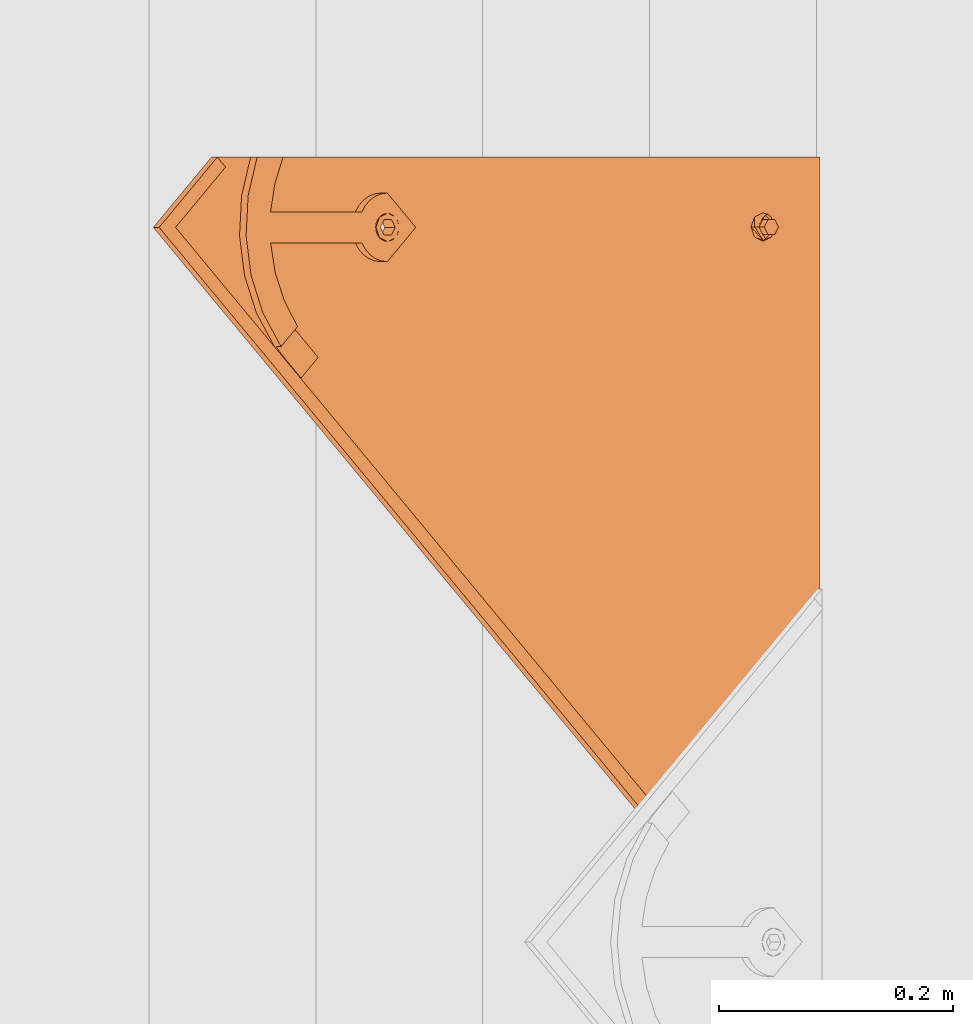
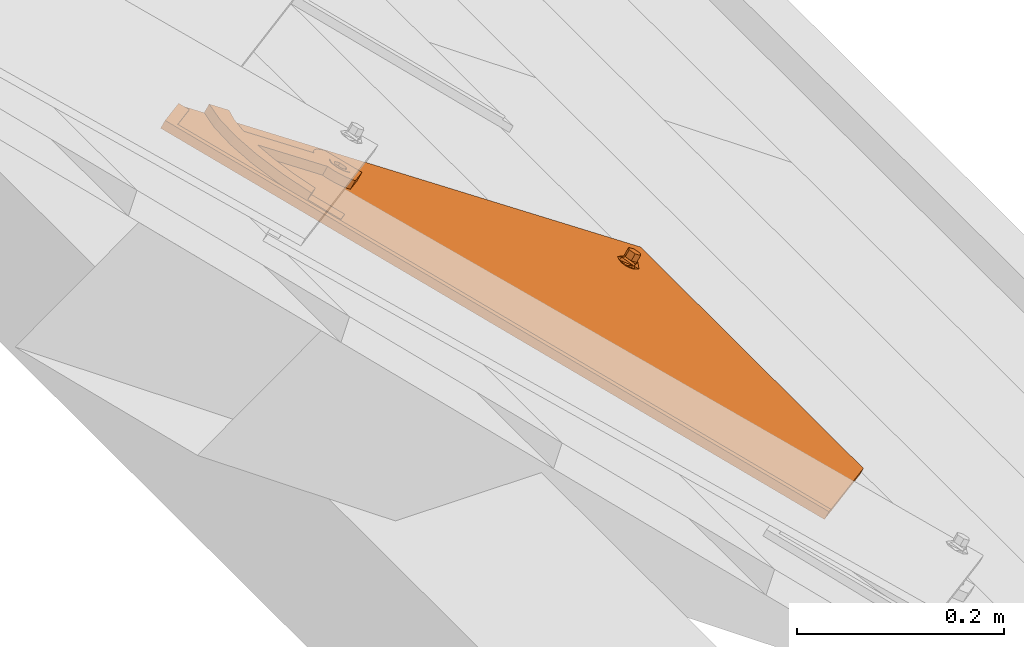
# One storey, part 131 of 151: 1 proxy.
"""IFC2X3 building model written with IfcOpenShell, lengths in millimetres."""

import ifcopenshell
import ifcopenshell.guid

model = None  # the IFC model being written
_history = None  # IfcOwnerHistory: only IFC2X3 demands one
_inside = {}  # id of a spatial element -> (the spatial element, [elements in it])
_under = {}  # id of a project, library or spatial element -> (it, [spatial elements below it])
_declared = {}  # id of a project -> (the project, [libraries it declares])
_typed = {}  # id of a type object -> (the type object, [elements of that type])
_made_of = {}  # id of a material, layer set ... -> (it, [elements and type objects made of it])


def new_model(schema):
    """Start an empty IFC model of exactly this schema.

    Asked for "IFC4X3", IfcOpenShell would pick the latest addendum, in which some entities
    have other attributes; the version numbers below select the first issue.
    IFC2X3 requires an IfcOwnerHistory on every rooted entity: one is made here for all.
    """
    global model, _history
    if schema == "IFC4X3":
        model = ifcopenshell.file(schema_version=(4, 3, 0, 0))
    else:
        model = ifcopenshell.file(schema=schema)
    _inside.clear()
    _under.clear()
    _declared.clear()
    _typed.clear()
    _made_of.clear()
    _history = None
    if model.schema == "IFC2X3":
        org = make("IfcOrganization", Name="unknown")
        user = make(
            "IfcPersonAndOrganization",
            ThePerson=make("IfcPerson", FamilyName="unknown"),
            TheOrganization=org,
        )
        app = make(
            "IfcApplication",
            ApplicationDeveloper=org,
            Version="unknown",
            ApplicationFullName="unknown",
            ApplicationIdentifier="unknown",
        )
        _history = make(
            "IfcOwnerHistory",
            OwningUser=user,
            OwningApplication=app,
            ChangeAction="ADDED",
            CreationDate=0,
        )
    return model


def make(cls, **values):
    """One entity of the class cls with the attributes given. An attribute that is None is left unset."""
    return model.create_entity(
        cls, **{name: value for name, value in values.items() if value is not None}
    )


def entity(cls, *values):
    """Any entity or typed value of the class cls, its attributes in the order of the schema. None: left unset."""
    e = model.create_entity(cls)
    for i, value in enumerate(values):
        if value is not None:
            e[i] = value
    return e


def rooted(cls, **values):
    """An entity with a GlobalId (a new one), such as an element, a storey or a relation."""
    return make(cls, GlobalId=ifcopenshell.guid.new(), OwnerHistory=_history, **values)


def si_unit(unit_type, name, prefix=None):
    """IfcSIUnit, for example si_unit("LENGTHUNIT", "METRE", prefix="MILLI")."""
    return make("IfcSIUnit", UnitType=unit_type, Prefix=prefix, Name=name)


def converted_unit(unit_type, name, factor, base, dimensions=None, offset=None):
    """IfcConversionBasedUnit, such as the inch: factor (a typed value) times the base unit."""
    return make(
        "IfcConversionBasedUnit"
        if offset is None
        else "IfcConversionBasedUnitWithOffset",
        ConversionOffset=offset,
        Dimensions=None
        if dimensions is None
        else entity("IfcDimensionalExponents", *dimensions),
        UnitType=unit_type,
        Name=name,
        ConversionFactor=make(
            "IfcMeasureWithUnit", ValueComponent=factor, UnitComponent=base
        ),
    )


def derived_unit(unit_type, elements):
    """IfcDerivedUnit: a product of units, each with its exponent."""
    return make(
        "IfcDerivedUnit",
        Elements=[
            make("IfcDerivedUnitElement", Unit=unit, Exponent=power)
            for unit, power in elements
        ],
        UnitType=unit_type,
    )


def assignment(units):
    """IfcUnitAssignment: the units of a project."""
    return None if units is None else make("IfcUnitAssignment", Units=units)


def point(xyz):
    """IfcCartesianPoint."""
    return None if xyz is None else make("IfcCartesianPoint", Coordinates=xyz)


def direction(xyz):
    """IfcDirection."""
    return None if xyz is None else make("IfcDirection", DirectionRatios=xyz)


def frame(location, z_axis=None, x_axis=None):
    """IfcAxis2Placement3D, a coordinate frame: its origin and axes. An axis left out is left unset."""
    return make(
        "IfcAxis2Placement3D",
        Location=point(location),
        Axis=direction(z_axis),
        RefDirection=direction(x_axis),
    )


def origin():
    """The frame at (0, 0, 0) with its axes left unset."""
    return frame((0.0, 0.0, 0.0))


def place(relative_to, where):
    """IfcLocalPlacement: puts the frame where relative to a parent placement (None: the world)."""
    return make(
        "IfcLocalPlacement", PlacementRelTo=relative_to, RelativePlacement=where
    )


def context(
    kind, dimensions, precision=None, world=None, true_north=None, identifier=None
):
    """IfcGeometricRepresentationContext, for example the 3D "Model" context."""
    return make(
        "IfcGeometricRepresentationContext",
        ContextIdentifier=identifier,
        ContextType=kind,
        CoordinateSpaceDimension=dimensions,
        Precision=precision,
        WorldCoordinateSystem=world,
        TrueNorth=true_north,
    )


def subcontext(parent, identifier, kind, view, scale=None):
    """IfcGeometricRepresentationSubContext, for example "Body" below "Model"."""
    return make(
        "IfcGeometricRepresentationSubContext",
        ContextIdentifier=identifier,
        ContextType=kind,
        ParentContext=parent,
        TargetScale=scale,
        TargetView=view,
    )


def project(units=None, contexts=None):
    """IfcProject with its units and contexts."""
    return rooted(
        "IfcProject",
        Name="project",
        RepresentationContexts=contexts,
        UnitsInContext=assignment(units),
    )


def spatial(cls, under=None, at=None, **own):
    """A site, building, storey or space (cls), placed at a placement, below another one or the project."""
    s = rooted(cls, ObjectPlacement=at, **own)
    if under is not None:
        _under.setdefault(under.id(), (under, []))[1].append(s)
    return s


def faces_of(points, faces, orient=None, outer=None):
    """IfcFace entities. A face is a list of loops; a loop is a list of indices into points, from 0.

    orient and outer hold one flag for each loop. By default every Orientation is true, the
    first loop of a face is its IfcFaceOuterBound and the others are IfcFaceBound.
    """
    made = []
    for i, loops in enumerate(faces):
        bounds = []
        for j, loop in enumerate(loops):
            is_outer = j == 0 if outer is None else outer[i][j]
            bounds.append(
                make(
                    "IfcFaceOuterBound" if is_outer else "IfcFaceBound",
                    Bound=make("IfcPolyLoop", Polygon=[points[k] for k in loop]),
                    Orientation=True if orient is None else orient[i][j],
                )
            )
        made.append(make("IfcFace", Bounds=bounds))
    return made


def faceted_brep(points, faces, orient=None, outer=None, voids=None):
    """IfcFacetedBrep: a solid bounded by flat faces; with voids (closed shells), ...WithVoids."""
    shared = [point(p) for p in points]
    hull = make("IfcClosedShell", CfsFaces=faces_of(shared, faces, orient, outer))
    if voids is None:
        return make("IfcFacetedBrep", Outer=hull)
    return make(
        "IfcFacetedBrepWithVoids",
        Outer=hull,
        Voids=[
            make(cls, CfsFaces=faces_of(shared, fs, o, b)) for cls, fs, o, b in voids
        ],
    )


def shape(context_of_items, identifier, shape_type, items):
    """IfcShapeRepresentation: the items that make up one representation, for example the "Body"."""
    return make(
        "IfcShapeRepresentation",
        ContextOfItems=context_of_items,
        RepresentationIdentifier=identifier,
        RepresentationType=shape_type,
        Items=items,
    )


def source(mapping_origin, context_of_items, identifier, shape_type, items):
    """IfcRepresentationMap: a shape defined once, which mapped items show again and again."""
    return make(
        "IfcRepresentationMap",
        MappingOrigin=mapping_origin,
        MappedRepresentation=shape(context_of_items, identifier, shape_type, items),
    )


def transform(
    local_origin,
    x_axis=None,
    y_axis=None,
    z_axis=None,
    scale=None,
    scale2=None,
    scale3=None,
    uniform=True,
):
    """IfcCartesianTransformationOperator3D, or its non-uniform kind. x_axis, y_axis, z_axis: its Axis1, 2, 3."""
    if uniform:
        return make(
            "IfcCartesianTransformationOperator3D",
            Axis1=direction(x_axis),
            Axis2=direction(y_axis),
            LocalOrigin=point(local_origin),
            Scale=scale,
            Axis3=direction(z_axis),
        )
    return make(
        "IfcCartesianTransformationOperator3DnonUniform",
        Axis1=direction(x_axis),
        Axis2=direction(y_axis),
        LocalOrigin=point(local_origin),
        Scale=scale,
        Axis3=direction(z_axis),
        Scale2=scale2,
        Scale3=scale3,
    )


def mapped(mapping_source, mapping_target):
    """IfcMappedItem: shows the shape of a source again, moved by a transform."""
    return make(
        "IfcMappedItem", MappingSource=mapping_source, MappingTarget=mapping_target
    )


def material(Name=None, Category=None):
    """IfcMaterial."""
    return make("IfcMaterial", Name=Name, Category=Category)


def material_list(materials):
    """IfcMaterialList."""
    return make("IfcMaterialList", Materials=materials)


def made_of(thing, what):
    """Note that an element or type object is made of a material, layer set ...; save() writes the relation."""
    if what is not None:
        _made_of.setdefault(what.id(), (what, []))[1].append(thing)
    return thing


def type_object(cls, material=None, **own):
    """A type object (cls), such as IfcWallType, which elements share."""
    return made_of(rooted(cls, **own), material)


def type_shapes(of_type, sources):
    """Give a type object the sources (RepresentationMaps) that its elements show as mapped items."""
    of_type.RepresentationMaps = sources


def element(
    cls,
    number,
    at=None,
    inside=None,
    cuts=None,
    type_object=None,
    material=None,
    context=None,
    identifier="Body",
    shape_type=None,
    held_by="IfcProductDefinitionShape",
    body=None,
    shapes=None,
    **own,
):
    """One element of the class cls, such as IfcWall. Its Tag is "e" and its number.

    at: its placement. inside: the storey or other place that contains it. cuts: it is an
    opening in that element (IfcRelVoidsElement). A single representation is given by context,
    identifier, shape_type and body (its items); several are given by shapes. held_by: the class
    of the entity that holds the representations. save() writes the other relations.
    """
    e = rooted(cls, Tag="e%d" % number, ObjectPlacement=at, **own)
    if body is not None:
        shapes = [shape(context, identifier, shape_type, body)]
    if shapes is not None:
        e.Representation = make(held_by, Representations=shapes)
    if inside is not None:
        _inside.setdefault(inside.id(), (inside, []))[1].append(e)
    if cuts is not None:
        rooted(
            "IfcRelVoidsElement", RelatingBuildingElement=cuts, RelatedOpeningElement=e
        )
    if type_object is not None:
        _typed.setdefault(type_object.id(), (type_object, []))[1].append(e)
    return made_of(e, material)


def aggregate(whole, parts):
    """IfcRelAggregates: a whole, such as a stair, and the parts it consists of."""
    return rooted("IfcRelAggregates", RelatingObject=whole, RelatedObjects=parts)


def save(model, path):
    """Write the relations noted so far, then the file.

    IfcRelAggregates (storeys below a building ...), IfcRelContainedInSpatialStructure (elements
    in a storey), IfcRelDefinesByType, IfcRelAssociatesMaterial and IfcRelDeclares: one each for
    every whole, place, type object, material and project.
    """
    for whole, parts in _under.values():
        aggregate(whole, parts)
    for where, things in _inside.values():
        rooted(
            "IfcRelContainedInSpatialStructure",
            RelatedElements=things,
            RelatingStructure=where,
        )
    for kind, things in _typed.values():
        rooted("IfcRelDefinesByType", RelatedObjects=things, RelatingType=kind)
    for what, things in _made_of.values():
        rooted("IfcRelAssociatesMaterial", RelatedObjects=things, RelatingMaterial=what)
    for by, libraries in _declared.values():
        rooted("IfcRelDeclares", RelatingContext=by, RelatedDefinitions=libraries)
    model.write(path)


model = new_model("IFC2X3")

# Units and contexts
model_context = context("Model", 3, precision=0.01, world=origin(), true_north=direction((6.12303176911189e-17, 1.0)))
body_context = subcontext(model_context, "Body", "Model", "MODEL_VIEW")
ifc_project = project(units=[si_unit("LENGTHUNIT", "METRE", prefix="MILLI"), si_unit("AREAUNIT", "SQUARE_METRE"), si_unit("VOLUMEUNIT", "CUBIC_METRE"), converted_unit("PLANEANGLEUNIT", "DEGREE", entity("IfcRatioMeasure", 0.0174532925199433), si_unit("PLANEANGLEUNIT", "RADIAN"), dimensions=[0, 0, 0, 0, 0, 0, 0]), si_unit("MASSUNIT", "GRAM", prefix="KILO"), derived_unit("MASSDENSITYUNIT", [(si_unit("MASSUNIT", "GRAM", prefix="KILO"), 1), (si_unit("LENGTHUNIT", "METRE"), -3)]), si_unit("TIMEUNIT", "SECOND"), si_unit("FREQUENCYUNIT", "HERTZ"), si_unit("THERMODYNAMICTEMPERATUREUNIT", "DEGREE_CELSIUS"), derived_unit("THERMALTRANSMITTANCEUNIT", [(si_unit("MASSUNIT", "GRAM", prefix="KILO"), 1), (si_unit("THERMODYNAMICTEMPERATUREUNIT", "KELVIN"), -1), (si_unit("TIMEUNIT", "SECOND"), -3)]), derived_unit("VOLUMETRICFLOWRATEUNIT", [(si_unit("LENGTHUNIT", "METRE"), 3), (si_unit("TIMEUNIT", "SECOND"), -1)]), si_unit("ELECTRICCURRENTUNIT", "AMPERE"), si_unit("ELECTRICVOLTAGEUNIT", "VOLT"), si_unit("POWERUNIT", "WATT"), si_unit("FORCEUNIT", "NEWTON", prefix="KILO"), si_unit("ILLUMINANCEUNIT", "LUX"), si_unit("LUMINOUSFLUXUNIT", "LUMEN"), si_unit("LUMINOUSINTENSITYUNIT", "CANDELA"), derived_unit("USERDEFINED", [(si_unit("MASSUNIT", "GRAM", prefix="KILO"), -1), (si_unit("LENGTHUNIT", "METRE"), -2), (si_unit("TIMEUNIT", "SECOND"), 3), (si_unit("LUMINOUSFLUXUNIT", "LUMEN"), 1)]), derived_unit("LINEARVELOCITYUNIT", [(si_unit("LENGTHUNIT", "METRE"), 1), (si_unit("TIMEUNIT", "SECOND"), -1)]), si_unit("PRESSUREUNIT", "PASCAL"), derived_unit("USERDEFINED", [(si_unit("LENGTHUNIT", "METRE"), -2), (si_unit("MASSUNIT", "GRAM", prefix="KILO"), 1), (si_unit("TIMEUNIT", "SECOND"), -2)])], contexts=[model_context])

# Site, building, storey
site_placement = place(None, origin())
site = spatial("IfcSite", under=ifc_project, at=site_placement, Name="Default", CompositionType="ELEMENT")
building_placement = place(site_placement, origin())
building = spatial("IfcBuilding", under=site, at=building_placement, CompositionType="ELEMENT")
storey_placement = place(building_placement, origin())
storey = spatial("IfcBuildingStorey", under=building, at=storey_placement, Name="Level 1", CompositionType="ELEMENT", Elevation=0.0)

# Proxy
ifc_material_1 = material(Name="Rubber - Sunstyle - Black")
ifc_material_2 = material(Name="Glass - Sunstyle - Tainted Black")
ifc_material_list_1 = material_list([ifc_material_1, ifc_material_2])
ifc_material_list_2 = material_list([ifc_material_1, ifc_material_2])
building_element_proxy_type = type_object("IfcBuildingElementProxyType", Name="Corner Bottom Big Right - Black", PredefinedType="NOTDEFINED", material=ifc_material_list_2)
shared_shape = source(origin(), body_context, "Body", "Brep", [
    faceted_brep([(0.270009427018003, -2.025866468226, -4.01619789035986), (-5.50419340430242, -5.35913660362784, -3.96037390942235), (-5.50419340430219, -4.99082751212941, 18.0314954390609), (0.270009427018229, -1.65755737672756, 17.9756714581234), (-5.50419340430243, -12.0256768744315, -3.84872594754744), (-5.5041934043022, -11.6573677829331, 18.1431434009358), (0.270009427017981, -15.3589470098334, -3.79290196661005), (0.270009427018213, -14.990637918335, 18.1989673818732), (6.04421225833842, -12.0256768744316, -3.84872594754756), (6.04421225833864, -11.6573677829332, 18.1431434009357), (6.04421225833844, -5.35913660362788, -3.96037390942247), (6.04421225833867, -4.99082751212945, 18.0314954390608), (-8.3336947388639, -16.9265954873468, 18.2313898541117), (0.27000942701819, -20.4898667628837, 18.2910657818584), (-11.8974656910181, -8.32409764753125, 18.0873194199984), (-8.33369473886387, 0.278400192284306, 17.9432489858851), (0.270009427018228, 3.84167146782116, 17.8835730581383), (8.87371359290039, 0.278400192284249, 17.9432489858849), (12.4374845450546, -8.32409764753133, 18.0873194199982), (8.87371359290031, -16.9265954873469, 18.2313898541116), (-11.1602134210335, -6.95050198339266, 20.4858706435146), (-9.50050407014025, -8.25322861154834, 22.3189355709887), (0.270009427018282, -0.940007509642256, 22.9603444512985), (0.27000942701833, 0.300490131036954, 22.3799978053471), (0.270009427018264, 2.4580409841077, 21.3706227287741), (-6.05323627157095, -4.59022324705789, 23.0214764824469), (-6.05323627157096, -11.8906547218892, 23.1437405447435), (0.270009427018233, -18.990246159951, 21.7298281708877), (0.270009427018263, -15.5408704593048, 23.2048725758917), (11.2551842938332, -12.0411541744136, 20.3827540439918), (10.3938597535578, -8.25726753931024, 22.077768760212), (6.59325512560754, -4.59022324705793, 23.0214764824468), (6.5932551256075, -11.8906547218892, 23.1437405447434), (-6.05323627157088, -11.7566262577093, 31.1466287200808), (0.270009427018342, -15.4068419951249, 31.207760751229), (0.270009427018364, -8.10641052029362, 31.0854966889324), (-6.05323627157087, -4.456194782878, 31.0243646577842), (6.59325512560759, -11.7566262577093, 31.1466287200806), (6.59325512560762, -4.45619478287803, 31.024364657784), (0.270009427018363, -0.805979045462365, 30.9632326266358), (0.270009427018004, -8.69240673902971, -3.90454992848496)], [[[0, 1, 2, 3]], [[1, 4, 5, 2]], [[4, 6, 7, 5]], [[6, 8, 9, 7]], [[8, 10, 11, 9]], [[10, 0, 3, 11]], [[12, 7, 13]], [[7, 12, 5]], [[14, 5, 12]], [[5, 14, 2]], [[15, 2, 14]], [[3, 2, 15]], [[15, 16, 3]], [[16, 17, 3]], [[11, 3, 17]], [[11, 17, 18]], [[9, 11, 18]], [[18, 19, 9]], [[7, 9, 19]], [[19, 13, 7]], [[15, 20, 16]], [[21, 22, 23, 24]], [[22, 21, 25]], [[20, 14, 12]], [[15, 14, 20]], [[25, 21, 26]], [[20, 24, 16]], [[12, 13, 27]], [[12, 27, 20]], [[21, 28, 26]], [[21, 27, 28]], [[20, 21, 24]], [[20, 27, 21]], [[19, 29, 13]], [[30, 23, 31]], [[30, 28, 27]], [[24, 23, 30]], [[29, 27, 13]], [[19, 18, 29]], [[29, 30, 27]], [[29, 17, 24]], [[24, 17, 16]], [[31, 32, 30]], [[23, 22, 31]], [[28, 30, 32]], [[29, 24, 30]], [[29, 18, 17]], [[33, 34, 35]], [[35, 36, 33]], [[34, 37, 35]], [[38, 35, 37]], [[35, 38, 39]], [[35, 39, 36]], [[40, 6, 4]], [[4, 1, 40]], [[1, 0, 40]], [[40, 8, 6]], [[0, 10, 40]], [[8, 40, 10]], [[22, 25, 36, 39]], [[25, 26, 33, 36]], [[26, 28, 34, 33]], [[28, 32, 37, 34]], [[32, 31, 38, 37]], [[31, 22, 39, 38]]]),
    faceted_brep([(-518.247351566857, 79.9143812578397, 14.9652572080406), (-518.247351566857, 79.9394990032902, 16.4650468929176), (-526.732038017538, 88.4241854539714, 16.3229495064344), (-526.732038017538, 88.399067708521, 14.8231598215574), (-0.00032251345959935, 614.98308737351, 6.00418773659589), (60.1037538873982, 554.895864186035, 7.01049921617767), (51.6190674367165, 546.411177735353, 7.15259660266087), (-0.000322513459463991, 598.016093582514, 6.28834266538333), (-0.000322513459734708, 615.00820511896, 7.50397742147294), (-0.000322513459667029, 598.041211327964, 7.78813235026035), (51.6190674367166, 546.436295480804, 8.65238628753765), (60.1037538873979, 554.920981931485, 8.51028890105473)], [[[0, 1, 2, 3]], [[0, 3, 4, 5, 6, 7]], [[3, 2, 8, 4]], [[2, 1, 9, 10, 11, 8]], [[1, 0, 7, 9]], [[6, 5, 11, 10]], [[4, 8, 11, 5]], [[9, 7, 6, 10]]]),
    faceted_brep([(0.0, 372.774440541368, 20.3195200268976), (0.0, 377.273809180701, 20.2441667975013), (-8.60370416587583, 376.337711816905, 20.2598440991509), (8.60370416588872, 376.337711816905, 20.2598440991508), (6.64022859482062, 381.107009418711, 20.1799702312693), (12.1674751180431, 384.940209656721, 20.1157736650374), (6.64022859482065, 388.773409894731, 20.0515770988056), (8.6037041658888, 393.542707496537, 19.9717032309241), (0.0, 392.606610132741, 19.9873805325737), (0.0, 397.105978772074, 19.9120273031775), (-8.60370416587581, 393.542707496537, 19.9717032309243), (-6.64022859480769, 388.773409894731, 20.0515770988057), (-12.1674751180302, 384.940209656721, 20.1157736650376), (-6.6402285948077, 381.107009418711, 20.1799702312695), (-6.6402282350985, 388.505487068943, 4.05382046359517), (0.0, 392.338687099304, 3.98962390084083), (-6.64022823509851, 380.839087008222, 4.18221358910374), (0.0, 377.005886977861, 4.24641015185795), (6.64022823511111, 380.839087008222, 4.1822135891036), (6.64022823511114, 388.505487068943, 4.05382046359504), (-8.603704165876, 376.069789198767, 4.26208746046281), (0.0, 372.50651792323, 4.32176338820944), (-12.1674751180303, 384.672287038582, 4.11801702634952), (-8.60370416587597, 393.274784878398, 3.97394659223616), (0.0, 396.838056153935, 3.91427066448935), (8.60370416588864, 393.274784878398, 3.97394659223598), (12.1674751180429, 384.672287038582, 4.11801702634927), (8.60370416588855, 376.069789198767, 4.26208746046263)], [[[0, 1, 2]], [[1, 0, 3]], [[3, 4, 1]], [[4, 3, 5]], [[6, 4, 5]], [[5, 7, 6]], [[7, 8, 6]], [[8, 7, 9]], [[8, 9, 10]], [[10, 11, 8]], [[12, 11, 10]], [[2, 13, 12]], [[12, 13, 11]], [[13, 2, 1]], [[8, 11, 14, 15]], [[11, 13, 16, 14]], [[13, 1, 17, 16]], [[1, 4, 18, 17]], [[4, 6, 19, 18]], [[6, 8, 15, 19]], [[20, 17, 21]], [[17, 20, 16]], [[22, 16, 20]], [[14, 16, 22]], [[23, 14, 22]], [[15, 14, 23]], [[23, 24, 15]], [[24, 25, 15]], [[19, 15, 25]], [[19, 25, 26]], [[26, 18, 19]], [[26, 27, 18]], [[17, 18, 27]], [[27, 21, 17]], [[24, 23, 10, 9]], [[10, 23, 22, 12]], [[20, 21, 0, 2]], [[20, 2, 12, 22]], [[21, 27, 3, 0]], [[3, 27, 26, 5]], [[25, 24, 9, 7]], [[25, 7, 5, 26]]]),
    faceted_brep([(-10.3923048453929, 390.78484910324, 9.75895037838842), (-8.48528137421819, 393.269782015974, 9.7173339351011), (-0.00032251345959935, 614.983087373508, 6.0041877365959), (-11.5911099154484, 387.891083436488, 9.8074137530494), (-6.0, 395.176538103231, 9.68540051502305), (-3.10582854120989, 396.37517508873, 9.6653263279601), (60.1037538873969, 554.895864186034, 7.01049921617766), (0.0, 396.784007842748, 9.65847939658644), (3.1058285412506, 396.37517508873, 9.6653263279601), (6.0, 395.176538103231, 9.68540051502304), (8.48528137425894, 393.269782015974, 9.7173339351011), (10.3923048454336, 390.784849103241, 9.75895037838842), (11.5911099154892, 387.891083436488, 9.8074137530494), (12.0, 384.785690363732, 9.8594213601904), (11.5911099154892, 381.680297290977, 9.9114289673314), (60.103753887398, -67.933460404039, 17.4413406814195), (10.3923048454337, 378.786531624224, 9.95989234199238), (6.58173564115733, -3.94243384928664, 16.369650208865), (8.48528137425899, 376.301598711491, 10.0015087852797), (5.31038666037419, -2.28581190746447, 16.3419059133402), (6.0, 374.394842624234, 10.0334422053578), (3.65353241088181, -1.01464118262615, 16.3206169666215), (3.10582854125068, 373.196205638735, 10.0535163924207), (1.72408477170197, -0.215549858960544, 16.3072341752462), (0.0, 372.787372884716, 10.0603633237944), (-0.346467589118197, 0.0570053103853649, 16.3026695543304), (-2.41701994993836, -0.215549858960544, 16.3072341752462), (-3.10582854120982, 373.196205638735, 10.0535163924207), (-4.34646758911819, -1.01464118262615, 16.3206169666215), (-6.0, 374.394842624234, 10.0334422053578), (-6.00332183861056, -2.28581190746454, 16.3419059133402), (-8.48528137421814, 376.301598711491, 10.0015087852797), (-370.355661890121, -67.9334604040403, 17.4413406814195), (-10.3923048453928, 378.786531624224, 9.95989234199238), (-526.732038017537, 88.3990677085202, 14.8231598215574), (-11.5911099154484, 381.680297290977, 9.9114289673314), (-12.0, 384.785690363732, 9.8594213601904), (-7.27467081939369, -3.94243384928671, 16.369650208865), (-8.07387419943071, -5.87161096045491, 16.4019591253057), (-8.34646758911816, -7.94187300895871, 16.4366308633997), (-8.0738741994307, -10.0121350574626, 16.4713026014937), (-7.27467081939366, -11.9413121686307, 16.5036115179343), (-6.00332183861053, -13.5979341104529, 16.5313558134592), (-4.34646758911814, -14.8691048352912, 16.5526447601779), (-2.41701994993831, -15.6681961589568, 16.5660275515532), (7.38093902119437, -5.87161096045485, 16.4019591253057), (7.65353241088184, -7.94187300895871, 16.4366308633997), (7.38093902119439, -10.0121350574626, 16.4713026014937), (6.58173564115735, -11.9413121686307, 16.5036115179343), (5.31038666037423, -13.5979341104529, 16.5313558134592), (3.65353241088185, -14.8691048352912, 16.5526447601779), (1.72408477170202, -15.6681961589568, 16.5660275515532), (-0.346467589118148, -15.9407513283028, 16.570592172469), (-370.355661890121, -68.0590491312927, 9.94239225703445), (-8.0738741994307, -10.1377237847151, 8.97235417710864), (-7.27467081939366, -12.0669008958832, 9.00466309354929), (-8.34646758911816, -8.06746173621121, 8.93768243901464), (-6.00332183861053, -13.7235228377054, 9.03240738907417), (-4.34646758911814, -14.9946935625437, 9.05369633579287), (60.103753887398, -68.0590491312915, 9.94239225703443), (-8.07387419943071, -5.99719968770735, 8.90301070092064), (-7.27467081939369, -4.06802257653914, 8.87070178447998), (-6.00332183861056, -2.41140063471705, 8.8429574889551), (-8.48528137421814, 376.176009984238, 2.50256036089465), (-10.3923048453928, 378.660942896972, 2.46094391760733), (-526.732038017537, 88.2734789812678, 7.32421139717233), (-11.5911099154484, 381.554708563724, 2.41248054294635), (-12.0, 384.66010163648, 2.36047293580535), (-11.5911099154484, 387.765494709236, 2.30846532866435), (-0.00032251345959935, 614.857498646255, -1.49476068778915), (-10.3923048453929, 390.659260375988, 2.26000195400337), (-8.48528137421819, 393.144193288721, 2.21838551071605), (-6.0, 395.050949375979, 2.18645209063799), (-3.10582854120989, 396.249586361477, 2.16637790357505), (60.1037538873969, 554.770275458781, -0.488449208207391), (0.0, 396.658419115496, 2.15953097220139), (3.1058285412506, 396.249586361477, 2.16637790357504), (6.0, 395.050949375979, 2.18645209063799), (8.48528137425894, 393.144193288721, 2.21838551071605), (10.3923048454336, 390.659260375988, 2.26000195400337), (11.5911099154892, 387.765494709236, 2.30846532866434), (12.0, 384.66010163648, 2.36047293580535), (11.5911099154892, 381.554708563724, 2.41248054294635), (-2.41701994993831, -15.7937848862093, 9.06707912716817), (-0.346467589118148, -16.0663400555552, 9.07164374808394), (1.72408477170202, -15.7937848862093, 9.06707912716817), (3.65353241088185, -14.9946935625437, 9.05369633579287), (5.31038666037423, -13.7235228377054, 9.03240738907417), (6.58173564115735, -12.0669008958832, 9.00466309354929), (7.38093902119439, -10.1377237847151, 8.97235417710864), (7.65353241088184, -8.06746173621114, 8.93768243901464), (7.38093902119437, -5.99719968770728, 8.90301070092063), (6.58173564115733, -4.06802257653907, 8.87070178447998), (10.3923048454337, 378.660942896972, 2.46094391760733), (-6.0, 374.269253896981, 2.5344937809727), (-4.34646758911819, -1.14022990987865, 8.8216685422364), (-3.10582854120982, 373.070616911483, 2.55456796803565), (-2.41701994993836, -0.341138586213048, 8.8082857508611), (0.0, 372.661784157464, 2.56141489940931), (-0.346467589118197, -0.0685834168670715, 8.80372112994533), (1.72408477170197, -0.341138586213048, 8.8082857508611), (3.10582854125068, 373.070616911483, 2.55456796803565), (3.65353241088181, -1.14022990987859, 8.8216685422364), (6.0, 374.269253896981, 2.5344937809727), (5.31038666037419, -2.41140063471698, 8.8429574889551), (8.48528137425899, 376.176009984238, 2.50256036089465)], [[[0, 1, 2]], [[3, 0, 2]], [[4, 2, 1]], [[2, 4, 5]], [[6, 2, 5]], [[7, 6, 5]], [[7, 8, 6]], [[8, 9, 6]], [[10, 6, 9]], [[6, 10, 11]], [[6, 11, 12]], [[12, 13, 6]], [[13, 14, 6]], [[6, 14, 15]], [[14, 16, 15]], [[17, 15, 16]], [[18, 17, 16]], [[17, 18, 19]], [[18, 20, 19]], [[21, 19, 20]], [[20, 22, 21]], [[23, 21, 22]], [[24, 23, 22]], [[23, 24, 25]], [[26, 25, 24]], [[24, 27, 26]], [[26, 27, 28]], [[29, 28, 27]], [[28, 29, 30]], [[29, 31, 30]], [[32, 30, 31]], [[33, 32, 31]], [[33, 34, 32]], [[33, 35, 34]], [[35, 36, 34]], [[36, 3, 34]], [[3, 2, 34]], [[30, 32, 37]], [[37, 32, 38]], [[32, 39, 38]], [[39, 32, 40]], [[40, 32, 41]], [[42, 41, 32]], [[42, 32, 43]], [[43, 32, 15]], [[15, 44, 43]], [[17, 45, 15]], [[45, 46, 15]], [[47, 15, 46]], [[47, 48, 15]], [[49, 15, 48]], [[15, 49, 50]], [[50, 51, 15]], [[51, 52, 15]], [[52, 44, 15]], [[53, 54, 55]], [[54, 53, 56]], [[53, 55, 57]], [[57, 58, 53]], [[53, 58, 59]], [[60, 56, 53]], [[61, 60, 53]], [[61, 53, 62]], [[63, 62, 53]], [[64, 63, 53]], [[65, 64, 53]], [[65, 66, 64]], [[66, 65, 67]], [[67, 65, 68]], [[65, 69, 68]], [[70, 68, 69]], [[71, 70, 69]], [[72, 71, 69]], [[69, 73, 72]], [[74, 73, 69]], [[75, 73, 74]], [[76, 75, 74]], [[77, 76, 74]], [[74, 78, 77]], [[78, 74, 79]], [[80, 79, 74]], [[80, 74, 81]], [[82, 81, 74]], [[82, 74, 59]], [[59, 58, 83]], [[84, 59, 83]], [[84, 85, 59]], [[85, 86, 59]], [[87, 59, 86]], [[59, 87, 88]], [[59, 88, 89]], [[89, 90, 59]], [[90, 91, 59]], [[91, 92, 59]], [[92, 93, 59]], [[93, 82, 59]], [[94, 62, 63]], [[94, 95, 62]], [[96, 95, 94]], [[97, 95, 96]], [[96, 98, 97]], [[99, 97, 98]], [[99, 98, 100]], [[101, 100, 98]], [[102, 100, 101]], [[103, 102, 101]], [[104, 102, 103]], [[103, 105, 104]], [[105, 92, 104]], [[105, 93, 92]], [[36, 67, 68, 3]], [[3, 68, 70, 0]], [[4, 1, 71, 72]], [[70, 71, 1, 0]], [[5, 4, 72, 73]], [[75, 7, 5, 73]], [[8, 76, 77, 9]], [[9, 77, 78, 10]], [[12, 11, 79, 80]], [[78, 79, 11, 10]], [[13, 12, 80, 81]], [[8, 7, 75, 76]], [[13, 81, 82, 14]], [[14, 82, 93, 16]], [[20, 18, 105, 103]], [[93, 105, 18, 16]], [[22, 20, 103, 101]], [[98, 24, 22, 101]], [[27, 96, 94, 29]], [[29, 94, 63, 31]], [[35, 33, 64, 66]], [[63, 64, 33, 31]], [[36, 35, 66, 67]], [[27, 24, 98, 96]], [[34, 2, 69, 65]], [[32, 34, 65, 53]], [[15, 32, 53, 59]], [[6, 15, 59, 74]], [[2, 6, 74, 69]], [[39, 56, 60, 38]], [[38, 60, 61, 37]], [[28, 30, 62, 95]], [[62, 30, 37, 61]], [[26, 28, 95, 97]], [[26, 97, 99, 25]], [[25, 99, 100, 23]], [[23, 100, 102, 21]], [[17, 19, 104, 92]], [[104, 19, 21, 102]], [[45, 17, 92, 91]], [[45, 91, 90, 46]], [[46, 90, 89, 47]], [[47, 89, 88, 48]], [[50, 49, 87, 86]], [[87, 49, 48, 88]], [[51, 50, 86, 85]], [[51, 85, 84, 52]], [[52, 84, 83, 44]], [[44, 83, 58, 43]], [[41, 42, 57, 55]], [[57, 42, 43, 58]], [[40, 41, 55, 54]], [[40, 54, 56, 39]]]),
    faceted_brep([(-114.2509690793, 483.839345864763, 10.7008696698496), (-128.946713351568, 469.147722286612, 10.9469178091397), (-111.269043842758, 451.472531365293, 11.2429332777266), (-84.944396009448, 477.793488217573, 10.8021227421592), (-102.027571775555, 494.874268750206, 10.5160621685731), (-108.279973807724, 489.512620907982, 10.6058564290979), (0.0, 355.735286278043, 10.3459433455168), (0.0, 373.122276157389, 10.0547545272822), (3.10582854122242, 373.531108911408, 10.0479075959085), (-3.10582854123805, 373.531108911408, 10.0479075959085), (6.0, 374.729745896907, 10.0278334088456), (8.48528137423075, 376.636501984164, 9.99589998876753), (29.3894280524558, 385.120593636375, 9.85381256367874), (-6.0, 374.729745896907, 10.0278334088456), (-8.4852813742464, 376.636501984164, 9.99589998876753), (-29.3894280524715, 385.120593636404, 9.85381256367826), (-10.3923048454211, 379.121434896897, 9.95428354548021), (-11.5911099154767, 382.01520056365, 9.90582017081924), (-12.0, 385.120593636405, 9.85381256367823), (-28.6795527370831, 391.540108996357, 9.74630165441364), (-11.5911099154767, 388.225986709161, 9.80180495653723), (-26.5842195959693, 397.649509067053, 9.64398440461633), (-10.3923048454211, 391.119752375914, 9.75334158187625), (-23.204650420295, 403.153659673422, 9.55180357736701), (-8.48528137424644, 393.604685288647, 9.71172513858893), (-18.704106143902, 407.786665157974, 9.47421226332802), (-6.0, 395.511441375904, 9.67979171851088), (-13.3000000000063, 411.324713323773, 9.41495875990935), (-3.10582854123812, 396.710078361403, 9.65971753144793), (0.0, 397.118911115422, 9.65287060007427), (13.2999999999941, 411.324713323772, 9.41495875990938), (-13.3000000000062, 505.643535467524, 7.83535317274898), (13.2999999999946, 505.643535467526, 7.83535317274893), (-7.21723712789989, 530.953901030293, 7.41146752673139), (-41.1626974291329, 525.784666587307, 7.49803934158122), (-38.7697427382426, 500.828655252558, 7.91599043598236), (-73.2491712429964, 513.560140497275, 7.70276973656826), (-62.9243331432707, 491.42502143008, 8.07347790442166), (-84.9431983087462, 477.752822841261, 8.30245321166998), (-102.027571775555, 494.832405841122, 8.01641269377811), (-108.279973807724, 489.470757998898, 8.10620695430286), (-114.2509690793, 483.79748295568, 8.20122019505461), (-111.269043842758, 451.430668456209, 8.74328380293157), (-128.946713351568, 469.105859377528, 8.44726833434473), (27.0541674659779, 528.834391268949, 7.44696404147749), (37.2599857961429, 501.252149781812, 7.90889795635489), (60.1037538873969, 519.521858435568, 7.60292579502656), (60.1037538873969, 492.795625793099, 8.05052369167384), (3.10582854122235, 396.710078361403, 9.65971753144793), (6.0, 395.511441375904, 9.67979171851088), (18.7041061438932, 407.786665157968, 9.47421226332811), (8.48528137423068, 393.604685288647, 9.71172513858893), (23.2046504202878, 403.153659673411, 9.55180357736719), (10.3923048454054, 391.119752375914, 9.75334158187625), (26.5842195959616, 397.649509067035, 9.64398440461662), (11.591109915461, 388.225986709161, 9.80180495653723), (28.6795527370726, 391.540108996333, 9.74630165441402), (12.0, 385.120593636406, 9.85381256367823), (11.591109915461, 382.01520056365, 9.90582017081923), (10.3923048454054, 379.121434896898, 9.95428354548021), (-38.7697427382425, 500.996106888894, 17.9145883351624), (-41.1626974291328, 525.952118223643, 17.4966372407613), (-73.2491712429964, 513.727592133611, 17.7013676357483), (-62.9243331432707, 491.592473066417, 18.0720758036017), (-13.3000000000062, 505.810987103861, 17.833951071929), (-7.21723712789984, 531.121352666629, 17.4100654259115), (13.2999999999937, 505.810987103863, 17.833951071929), (-13.3000000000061, 411.49216496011, 19.4135566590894), (13.2999999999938, 411.492164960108, 19.4135566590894), (0.0, 397.286362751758, 19.6514684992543), (-3.10582854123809, 396.877529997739, 19.658315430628), (-6.0, 395.678893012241, 19.6783896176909), (-18.7041061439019, 407.954116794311, 19.4728101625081), (-8.48528137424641, 393.772136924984, 19.710323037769), (-23.2046504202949, 403.321111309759, 19.5504014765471), (-10.3923048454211, 391.28720401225, 19.7519394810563), (-26.5842195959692, 397.816960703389, 19.6425823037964), (-11.5911099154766, 388.393438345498, 19.8004028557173), (-28.6795527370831, 391.707560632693, 19.7448995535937), (-12.0, 385.288045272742, 19.8524104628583), (-29.3894280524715, 385.28804527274, 19.8524104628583), (-11.5911099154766, 382.182652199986, 19.9044180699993), (-10.3923048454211, 379.288886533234, 19.9528814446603), (-8.48528137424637, 376.803953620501, 19.9944978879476), (0.0, 355.902737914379, 20.3445412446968), (-6.0, 374.897197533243, 20.0264313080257), (-3.10582854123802, 373.698560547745, 20.0465054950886), (0.0, 373.289727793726, 20.0533524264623), (3.10582854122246, 373.698560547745, 20.0465054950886), (6.0, 374.897197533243, 20.0264313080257), (8.48528137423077, 376.803953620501, 19.9944978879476), (29.3894280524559, 385.288045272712, 19.8524104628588), (10.3923048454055, 379.288886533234, 19.9528814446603), (11.591109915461, 382.182652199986, 19.9044180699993), (12.0, 385.288045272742, 19.8524104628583), (28.6795527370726, 391.70756063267, 19.7448995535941), (11.591109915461, 388.393438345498, 19.8004028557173), (26.5842195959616, 397.816960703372, 19.6425823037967), (10.3923048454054, 391.28720401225, 19.7519394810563), (23.2046504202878, 403.321111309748, 19.5504014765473), (8.48528137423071, 393.772136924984, 19.710323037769), (18.7041061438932, 407.954116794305, 19.4728101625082), (6.0, 395.678893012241, 19.6783896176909), (3.10582854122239, 396.877529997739, 19.658315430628), (27.0541674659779, 529.001842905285, 17.4455619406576), (37.259985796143, 501.419601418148, 17.907495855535), (60.1037538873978, 519.689310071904, 17.6015236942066), (60.1037538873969, 492.963077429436, 18.0491215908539), (-84.9443960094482, 477.919076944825, 18.3010711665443), (-102.027571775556, 494.999857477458, 18.0150105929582)], [[[0, 1, 2, 3, 4, 5]], [[6, 7, 8]], [[7, 6, 9]], [[6, 8, 10]], [[10, 11, 6]], [[6, 11, 12]], [[13, 9, 6]], [[14, 13, 6]], [[14, 6, 15]], [[15, 16, 14]], [[16, 15, 17]], [[17, 15, 18]], [[19, 18, 15]], [[20, 18, 19]], [[19, 21, 20]], [[20, 21, 22]], [[23, 22, 21]], [[23, 24, 22]], [[23, 25, 24]], [[25, 26, 24]], [[26, 25, 27]], [[28, 26, 27]], [[27, 29, 28]], [[30, 29, 27]], [[30, 27, 31]], [[30, 31, 32]], [[31, 33, 32]], [[33, 31, 34]], [[35, 34, 31]], [[34, 35, 36]], [[37, 36, 35]], [[37, 38, 36]], [[36, 38, 39]], [[40, 39, 38]], [[40, 38, 41]], [[38, 42, 41]], [[42, 43, 41]], [[32, 33, 44]], [[44, 45, 32]], [[45, 44, 46]], [[46, 47, 45]], [[48, 29, 30]], [[30, 49, 48]], [[49, 30, 50]], [[50, 51, 49]], [[50, 52, 51]], [[51, 52, 53]], [[54, 53, 52]], [[54, 55, 53]], [[56, 55, 54]], [[57, 55, 56]], [[12, 57, 56]], [[58, 57, 12]], [[12, 11, 59]], [[58, 12, 59]], [[1, 0, 41, 43]], [[2, 1, 43, 42]], [[4, 39, 40, 5]], [[40, 41, 0, 5]], [[3, 2, 42, 38]], [[60, 61, 62]], [[63, 60, 62]], [[64, 61, 60]], [[61, 64, 65]], [[66, 65, 64]], [[66, 64, 67]], [[66, 67, 68]], [[68, 67, 69]], [[67, 70, 69]], [[71, 70, 67]], [[71, 67, 72]], [[72, 73, 71]], [[73, 72, 74]], [[73, 74, 75]], [[74, 76, 75]], [[75, 76, 77]], [[78, 77, 76]], [[78, 79, 77]], [[78, 80, 79]], [[79, 80, 81]], [[82, 81, 80]], [[83, 82, 80]], [[83, 80, 84]], [[85, 83, 84]], [[86, 85, 84]], [[87, 86, 84]], [[87, 84, 88]], [[89, 88, 84]], [[89, 84, 90]], [[91, 90, 84]], [[92, 90, 91]], [[91, 93, 92]], [[93, 91, 94]], [[95, 94, 91]], [[95, 96, 94]], [[95, 97, 96]], [[96, 97, 98]], [[99, 98, 97]], [[98, 99, 100]], [[100, 99, 101]], [[101, 68, 102]], [[100, 101, 102]], [[102, 68, 103]], [[103, 68, 69]], [[66, 104, 65]], [[105, 104, 66]], [[105, 106, 104]], [[106, 105, 107]], [[108, 63, 62]], [[62, 109, 108]], [[66, 68, 30, 32]], [[95, 91, 12, 56]], [[97, 95, 56, 54]], [[54, 52, 99, 97]], [[101, 99, 52, 50]], [[68, 101, 50, 30]], [[91, 84, 6, 12]], [[84, 80, 15, 6]], [[72, 67, 27, 25]], [[74, 72, 25, 23]], [[23, 21, 76, 74]], [[78, 76, 21, 19]], [[80, 78, 19, 15]], [[67, 64, 31, 27]], [[104, 106, 46, 44]], [[65, 104, 44, 33]], [[33, 34, 61, 65]], [[62, 61, 34, 36]], [[4, 109, 62, 36, 39]], [[79, 18, 20, 77]], [[77, 20, 22, 75]], [[71, 73, 24, 26]], [[22, 24, 73, 75]], [[70, 71, 26, 28]], [[29, 69, 70, 28]], [[103, 48, 49, 102]], [[102, 49, 51, 100]], [[96, 98, 53, 55]], [[51, 53, 98, 100]], [[94, 96, 55, 57]], [[103, 69, 29, 48]], [[94, 57, 58, 93]], [[93, 58, 59, 92]], [[89, 90, 11, 10]], [[59, 11, 90, 92]], [[88, 89, 10, 8]], [[7, 87, 88, 8]], [[86, 9, 13, 85]], [[85, 13, 14, 83]], [[81, 82, 16, 17]], [[14, 16, 82, 83]], [[79, 81, 17, 18]], [[86, 87, 7, 9]], [[108, 109, 4, 3]], [[32, 45, 105, 66]], [[47, 107, 105, 45]], [[3, 37, 63, 108]], [[3, 38, 37]], [[35, 31, 64, 60]], [[37, 35, 60, 63]], [[106, 107, 47, 46]]]),
])
type_shapes(building_element_proxy_type, [shared_shape])
proxy_placement = place(storey_placement, frame((4500.27316942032, -2249.8884755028, 564.643296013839), z_axis=(0.573576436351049, 0.0, 0.81915204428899), x_axis=(0.0, 1.0, 0.0)))
element("IfcBuildingElementProxy", 1, at=proxy_placement, inside=storey, type_object=building_element_proxy_type, material=ifc_material_list_1, Name="Roofing_Panels_SunStyle_Tile_Corner-Bottom-Big-Right:Corner Bottom Big Right - Black", ObjectType="Roofing_Panels_SunStyle_Tile_Corner-Bottom-Big-Right:Corner Bottom Big Right - Black", context=body_context, shape_type="MappedRepresentation", body=[
    mapped(shared_shape, transform((0.0, 0.0, 0.0), scale=1.0)),
])

save(model, "model.ifc")
